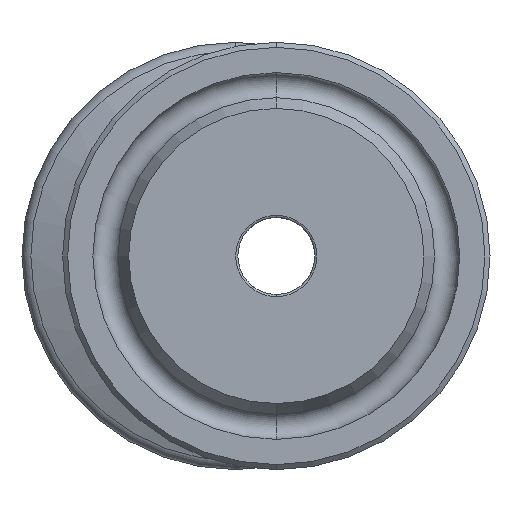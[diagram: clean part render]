
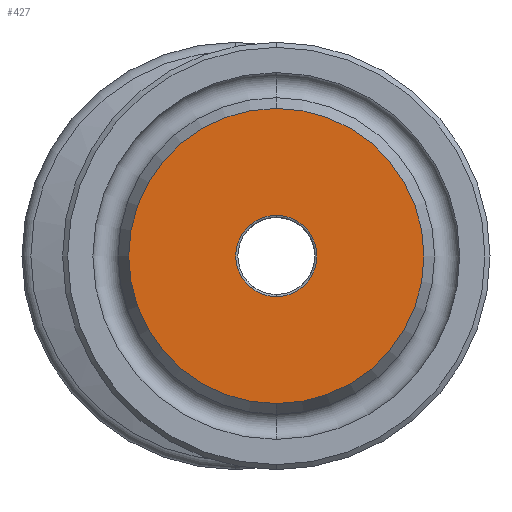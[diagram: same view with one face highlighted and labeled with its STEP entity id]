
A CAD part, left-side view. The second image highlights one B-rep face of the part: STEP entity #427.
In plain terms, the highlighted planar face has unit normal (-1, 0, 0).
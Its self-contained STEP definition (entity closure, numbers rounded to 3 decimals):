
#22 = ORIENTED_EDGE ( 'NONE', *, *, #1148, .F. ) ;
#41 = VERTEX_POINT ( 'NONE', #1408 ) ;
#101 = ORIENTED_EDGE ( 'NONE', *, *, #1966, .T. ) ;
#112 = DIRECTION ( 'NONE',  ( 1., 0., 0. ) ) ;
#231 = CIRCLE ( 'NONE', #1185, 8.772 ) ;
#240 = EDGE_CURVE ( 'NONE', #2214, #41, #231, .T. ) ;
#291 = CARTESIAN_POINT ( 'NONE',  ( 0.8, -2.414, -8.772 ) ) ;
#325 = AXIS2_PLACEMENT_3D ( 'NONE', #878, #2103, #1050 ) ;
#344 = DIRECTION ( 'NONE',  ( 1., 0., 0. ) ) ;
#359 = DIRECTION ( 'NONE',  ( 0., 0., -1. ) ) ;
#427 = ADVANCED_FACE ( 'NONE', ( #1657, #1715 ), #1768, .F. ) ;
#540 = EDGE_LOOP ( 'NONE', ( #1121, #22 ) ) ;
#725 = DIRECTION ( 'NONE',  ( 1., 0., 0. ) ) ;
#878 = CARTESIAN_POINT ( 'NONE',  ( 0.8, -2.414, 0. ) ) ;
#1036 = ORIENTED_EDGE ( 'NONE', *, *, #1685, .T. ) ;
#1050 = DIRECTION ( 'NONE',  ( 0., 0., -1. ) ) ;
#1121 = ORIENTED_EDGE ( 'NONE', *, *, #240, .F. ) ;
#1138 = AXIS2_PLACEMENT_3D ( 'NONE', #1761, #1591, #359 ) ;
#1147 = AXIS2_PLACEMENT_3D ( 'NONE', #1773, #725, #1947 ) ;
#1148 = EDGE_CURVE ( 'NONE', #41, #2214, #2182, .T. ) ;
#1160 = CARTESIAN_POINT ( 'NONE',  ( 0.8, -2.414, 0. ) ) ;
#1185 = AXIS2_PLACEMENT_3D ( 'NONE', #1405, #344, #1569 ) ;
#1297 = CARTESIAN_POINT ( 'NONE',  ( 0.8, -2.414, -2.413 ) ) ;
#1298 = CIRCLE ( 'NONE', #1147, 2.413 ) ;
#1343 = DIRECTION ( 'NONE',  ( 0., 0., -1. ) ) ;
#1348 = AXIS2_PLACEMENT_3D ( 'NONE', #1160, #112, #1343 ) ;
#1404 = CARTESIAN_POINT ( 'NONE',  ( 0.8, -2.414, 2.413 ) ) ;
#1405 = CARTESIAN_POINT ( 'NONE',  ( 0.8, -2.414, 0. ) ) ;
#1408 = CARTESIAN_POINT ( 'NONE',  ( 0.8, -2.414, 8.772 ) ) ;
#1443 = VERTEX_POINT ( 'NONE', #1404 ) ;
#1569 = DIRECTION ( 'NONE',  ( 0., 0., -1. ) ) ;
#1591 = DIRECTION ( 'NONE',  ( 1., 0., 0. ) ) ;
#1657 = FACE_BOUND ( 'NONE', #1935, .T. ) ;
#1685 = EDGE_CURVE ( 'NONE', #1882, #1443, #1298, .T. ) ;
#1715 = FACE_OUTER_BOUND ( 'NONE', #540, .T. ) ;
#1737 = CIRCLE ( 'NONE', #1348, 2.413 ) ;
#1761 = CARTESIAN_POINT ( 'NONE',  ( 0.8, 6.358, 0. ) ) ;
#1768 = PLANE ( 'NONE',  #1138 ) ;
#1773 = CARTESIAN_POINT ( 'NONE',  ( 0.8, -2.414, 0. ) ) ;
#1882 = VERTEX_POINT ( 'NONE', #1297 ) ;
#1935 = EDGE_LOOP ( 'NONE', ( #1036, #101 ) ) ;
#1947 = DIRECTION ( 'NONE',  ( 0., 0., -1. ) ) ;
#1966 = EDGE_CURVE ( 'NONE', #1443, #1882, #1737, .T. ) ;
#2103 = DIRECTION ( 'NONE',  ( 1., 0., 0. ) ) ;
#2182 = CIRCLE ( 'NONE', #325, 8.772 ) ;
#2214 = VERTEX_POINT ( 'NONE', #291 ) ;
